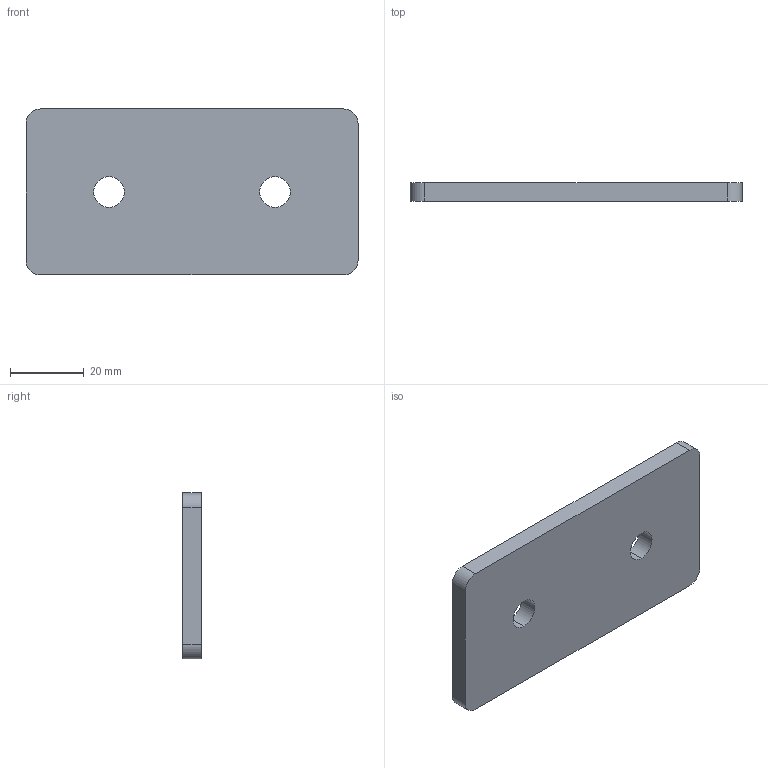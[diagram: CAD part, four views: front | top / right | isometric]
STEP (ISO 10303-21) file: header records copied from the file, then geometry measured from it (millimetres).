
FILE_DESCRIPTION (( 'STEP AP214' ), '1' );
FILE_NAME ('967-45-90-F-2-SR.step', '2023-06-26T09:08:55', ( '' ), ( '' ), 'SwSTEP 2.0', 'SolidWorks 2022', '' );
FILE_SCHEMA (( 'AUTOMOTIVE_DESIGN' ));
Length unit declared in the file: millimetre
Products named in the file (1): 967-45-90-F-2-SR
Bounding box: 90 x 5 x 45 mm (x, y, z)
Volume: 19640.3 mm3; surface area: 9432.5 mm2
Topology: 1 solids, 1 shells, 14 faces, 36 edges, 24 vertices
Faces by surface type: cylinder 8, plane 6
Entity records: 478 total; most frequent: DIRECTION 82, CARTESIAN_POINT 75, ORIENTED_EDGE 72, EDGE_CURVE 36, AXIS2_PLACEMENT_3D 31, VERTEX_POINT 24, LINE 20, VECTOR 20
